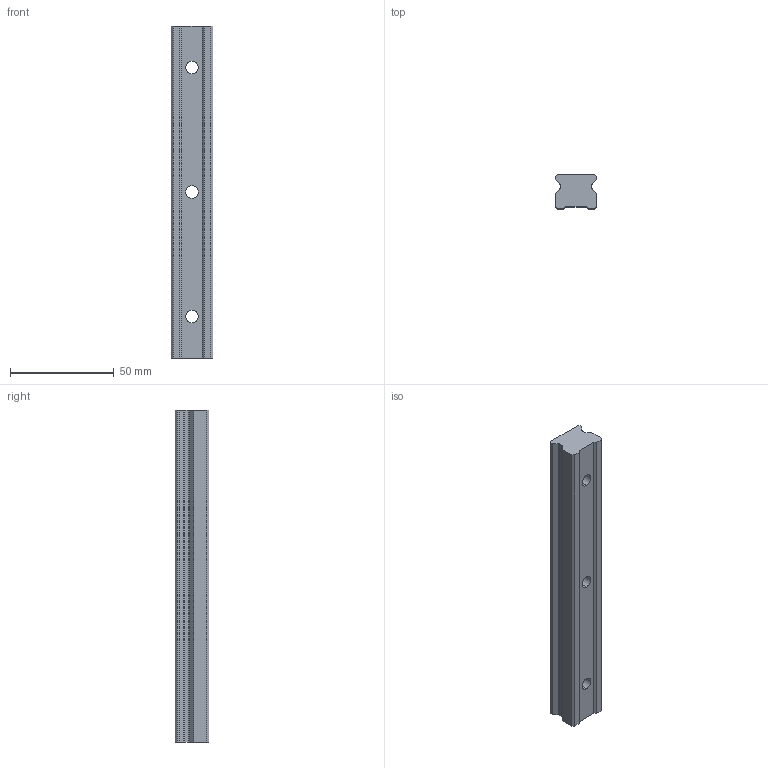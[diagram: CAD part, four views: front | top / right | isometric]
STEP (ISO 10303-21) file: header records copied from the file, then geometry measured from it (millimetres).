
FILE_DESCRIPTION (( 'STEP AP203' ), '1' );
FILE_NAME ('L1016.BL20-0160.step', '2019-06-12T11:45:37', ( '' ), ( '' ), 'SwSTEP 2.0', 'SolidWorks 2017', '' );
FILE_SCHEMA (( 'CONFIG_CONTROL_DESIGN' ));
Length unit declared in the file: millimetre
Products named in the file (1): L1016.BL20-0160
Bounding box: 20 x 16.3 x 160 mm (x, y, z)
Volume: 44225 mm3; surface area: 13523.2 mm2
Topology: 1 solids, 1 shells, 41 faces, 108 edges, 72 vertices
Faces by surface type: plane 25, cylinder 16
Entity records: 1363 total; most frequent: DIRECTION 224, CARTESIAN_POINT 222, ORIENTED_EDGE 216, EDGE_CURVE 108, VECTOR 76, LINE 76, AXIS2_PLACEMENT_3D 74, VERTEX_POINT 72
